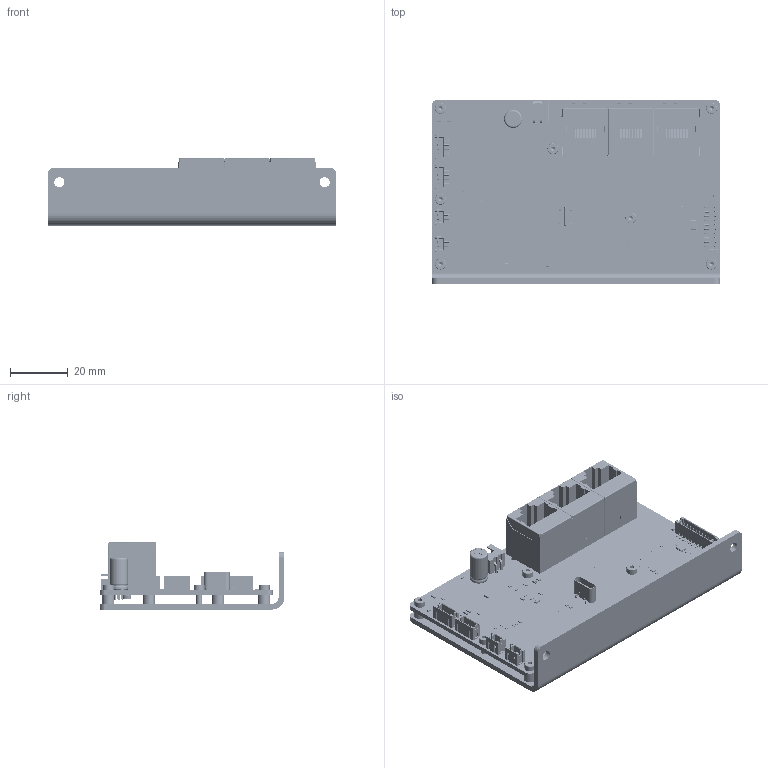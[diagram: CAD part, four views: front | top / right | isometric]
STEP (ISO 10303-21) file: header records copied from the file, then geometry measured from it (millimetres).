
FILE_DESCRIPTION (( 'STEP AP214' ), '1' );
FILE_NAME ('CIC Core Board.STEP', '2026-04-07T08:14:03', ( 'User' ), ( 'China' ), 'SwSTEP 2.0', 'SolidWorks 2020', '' );
FILE_SCHEMA (( 'AUTOMOTIVE_DESIGN' ));
Length unit declared in the file: millimetre
Products named in the file (274): R37.STEP; LED11.STEP; R19.STEP; ZH1.5-LS-4P-subassembly-1.STEP; CONN-TH_2P-P2.50_XH-2AW~XH2.54-2P_H~nXPH.step-2.STEP; LED6.STEP; C12.STEP; LOGO_0.25-16.STEP; 3D_PCB1_2026-03-06.step.STEP; SMD-24_L15.1-W7.1-P1.00-LS10.0-BL.step-subassembly-1.STEP; R10-subassembly-1.STEP; J4.STEP; User Library-RES_1005-0402-1.STEP; LOGO_0.25-36.STEP; LOGO_-13.STEP; R41.STEP; R13.STEP; C2683357.STEP; R12.STEP; LOGO_0.25-3.STEP; C70.STEP; User Library-RES_1609-0603-2.STEP; R15-subassembly-1.STEP; ZH1.5-LS-4P-2.STEP; CONN-TH_2P-P2.50_XH-2AW~XH2.54-2P_H~nXPH.step-5.STEP; COMPOUND.step-4.STEP; TYPE-C-SMD_USB4120-03-C~TYPE-C-SMD_USB4120-03-C~Vx5X.step-1.STEP; LOGO_0.25-19.STEP; Board-Part-1.STEP; LOGO_0.25-22.STEP; 3D_PCB1_2023-04-10.step.STEP; ZH1.5-LS-10P-1.STEP; LOGO_-2.STEP; R44-subassembly-1.STEP; LOGO_0.25-39.STEP; CAP 2.5X6.3X11.2.STEP; R47-subassembly-1.STEP; R53-subassembly-1.STEP; RJ1.STEP; R20-subassembly-1.STEP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
Assembly tree (444 placements, depth 9):
  CIC Core Board
    ALM_ETH.STEP
      RJ3.STEP
        C2683357.STEP
          3D_PCB_Demo_2024-04-07.step.STEP
            RJ1.step.STEP
              RJ45-KH-5224-8P8C.step.STEP
                RJ45-KH-5224-8P8C.step-subassembly-1.STEP
                  COMPOUND.step.STEP
                  COMPOUND.step-1.STEP
      RJ2.STEP
        C2683357.STEP
          3D_PCB_Demo_2024-04-07.step.STEP
            RJ1.step.STEP
              RJ45-KH-5224-8P8C.step.STEP
                RJ45-KH-5224-8P8C.step-subassembly-1.STEP
                  COMPOUND.step.STEP
                  COMPOUND.step-1.STEP
      RJ1.STEP
        C2683357.STEP
          3D_PCB_Demo_2024-04-07.step.STEP
            RJ1.step.STEP
              RJ45-KH-5224-8P8C.step.STEP
                RJ45-KH-5224-8P8C.step-subassembly-1.STEP
                  COMPOUND.step.STEP
                  COMPOUND.step-1.STEP
      LED10.STEP
        LED0603Amber.STEP
          8.step.STEP
            fnpg-LED1-LED0603-RD_1.step.STEP
      LED11.STEP
        LED0603Green.STEP
          8.step-1.STEP
            fnpg-LED1-LED0603-RD_1.step-1.STEP
      R50.STEP
        R50-subassembly-1.STEP
          User Library-RES_1609-0603.STEP
          User Library-RES_1609-0603-1.STEP
          User Library-RES_1609-0603-2.STEP
          User Library-RES_1609-0603-3.STEP
      R42.STEP
        R42-subassembly-1.STEP
          User Library-RES_1609-0603.STEP
          User Library-RES_1609-0603-1.STEP
          User Library-RES_1609-0603-2.STEP
          User Library-RES_1609-0603-3.STEP
      LED9.STEP
        LED0603Green.STEP
          8.step-1.STEP
            fnpg-LED1-LED0603-RD_1.step-1.STEP
      LED8.STEP
        LED0603Amber.STEP
          8.step.STEP
            fnpg-LED1-LED0603-RD_1.step.STEP
      R34.STEP
        R34-subassembly-1.STEP
          User Library-RES_1609-0603.STEP
          User Library-RES_1609-0603-1.STEP
          User Library-RES_1609-0603-2.STEP
          User Library-RES_1609-0603-3.STEP
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Bounding box: 100 x 64 x 23.25 mm (x, y, z)
Volume: 36158.1 mm3; surface area: 48674.4 mm2
Topology: 345 solids, 345 shells, 14815 faces, 38010 edges, 24412 vertices
Faces by surface type: plane 8482, bspline 4111, cylinder 1559, sphere 268, torus 263, cone 132
Entity records: 159414 total; most frequent: CARTESIAN_POINT 46128, ORIENTED_EDGE 21162, DIRECTION 17201, EDGE_CURVE 10581, LINE 7485, VECTOR 7485, VERTEX_POINT 6934, AXIS2_PLACEMENT_3D 4858
